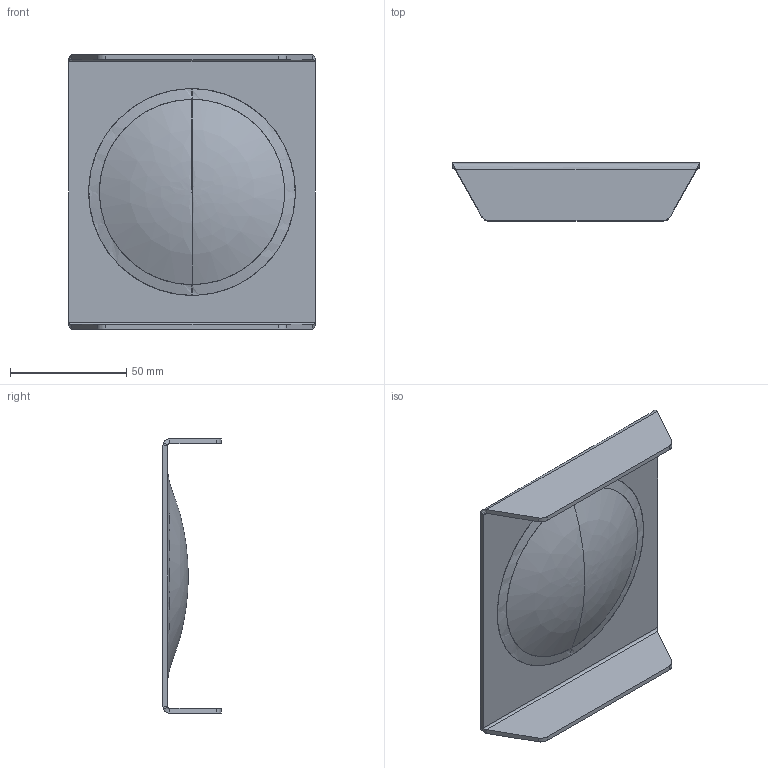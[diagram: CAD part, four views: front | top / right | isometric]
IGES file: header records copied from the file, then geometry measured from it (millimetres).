
Start section: SolidWorks IGES file using analytic representation for surfaces
Global section: file name: G:\Projects\New project\For Marketing\IGS\IGS\2015-12-11\366052002VW.IGS; native system: SolidWorks 2010; preprocessor: SolidWorks 2010; author: linda; date: 151207.104142; units: millimetre
Bounding box: 106 x 25 x 118 mm (x, y, z)
Surface area: 34555.3 mm2 (no closed solid volume)
Topology: 0 solids, 0 shells, 38 faces, 328 edges, 327 vertices
Faces by surface type: bspline 26, revolution 12
